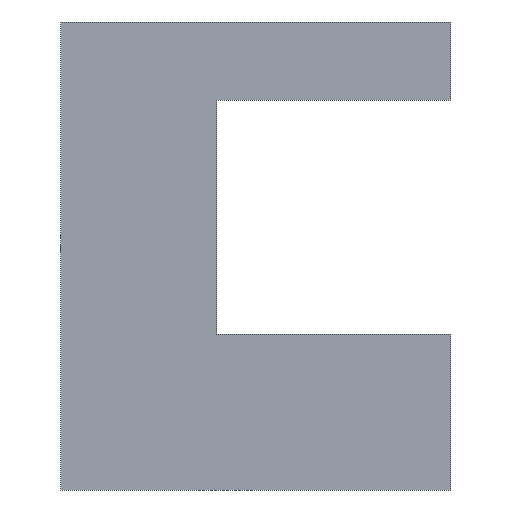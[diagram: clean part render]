
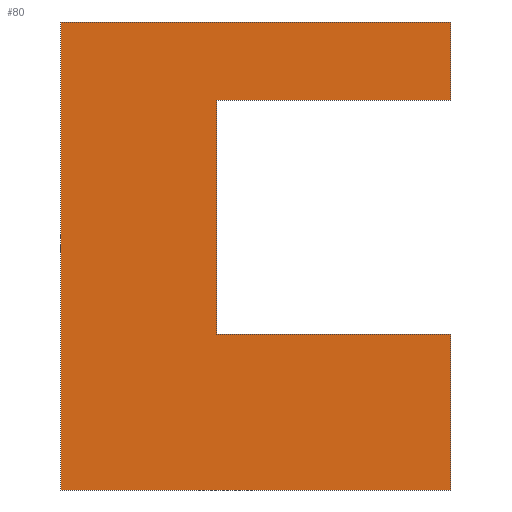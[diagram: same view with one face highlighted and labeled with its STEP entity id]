
A CAD part, front view. The second image highlights one B-rep face of the part: STEP entity #80.
In plain terms, the highlighted planar face has unit normal (0, -1, 0).
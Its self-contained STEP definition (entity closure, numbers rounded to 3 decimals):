
#15 = DIRECTION ( 'NONE',  ( 0., 0., -1. ) ) ;
#17 = EDGE_CURVE ( 'NONE', #107, #82, #66, .T. ) ;
#33 = AXIS2_PLACEMENT_3D ( 'NONE', #61, #242, #167 ) ;
#34 = LINE ( 'NONE', #329, #317 ) ;
#41 = LINE ( 'NONE', #229, #228 ) ;
#44 = LINE ( 'NONE', #298, #109 ) ;
#49 = LINE ( 'NONE', #125, #240 ) ;
#51 = CARTESIAN_POINT ( 'NONE',  ( 0., -1000., 15. ) ) ;
#55 = ORIENTED_EDGE ( 'NONE', *, *, #239, .F. ) ;
#61 = CARTESIAN_POINT ( 'NONE',  ( 0., -1000., 0. ) ) ;
#63 = DIRECTION ( 'NONE',  ( 0., 0., 1. ) ) ;
#64 = PLANE ( 'NONE',  #33 ) ;
#66 = LINE ( 'NONE', #241, #74 ) ;
#74 = VECTOR ( 'NONE', #245, 1000. ) ;
#76 = LINE ( 'NONE', #51, #170 ) ;
#79 = ORIENTED_EDGE ( 'NONE', *, *, #269, .F. ) ;
#80 = ADVANCED_FACE ( 'NONE', ( #263 ), #64, .F. ) ;
#82 = VERTEX_POINT ( 'NONE', #96 ) ;
#84 = EDGE_CURVE ( 'NONE', #91, #292, #41, .T. ) ;
#91 = VERTEX_POINT ( 'NONE', #302 ) ;
#96 = CARTESIAN_POINT ( 'NONE',  ( 12.5, -1000., -5. ) ) ;
#107 = VERTEX_POINT ( 'NONE', #156 ) ;
#108 = EDGE_CURVE ( 'NONE', #292, #107, #49, .T. ) ;
#109 = VECTOR ( 'NONE', #124, 1000. ) ;
#123 = VECTOR ( 'NONE', #318, 1000. ) ;
#124 = DIRECTION ( 'NONE',  ( -1., 0., 0. ) ) ;
#125 = CARTESIAN_POINT ( 'NONE',  ( -2.5, -1000., 2.5 ) ) ;
#131 = ORIENTED_EDGE ( 'NONE', *, *, #84, .F. ) ;
#138 = ORIENTED_EDGE ( 'NONE', *, *, #200, .F. ) ;
#139 = ORIENTED_EDGE ( 'NONE', *, *, #108, .F. ) ;
#142 = ORIENTED_EDGE ( 'NONE', *, *, #17, .F. ) ;
#147 = EDGE_CURVE ( 'NONE', #82, #323, #176, .T. ) ;
#152 = CARTESIAN_POINT ( 'NONE',  ( 12.5, -1000., 15. ) ) ;
#154 = CARTESIAN_POINT ( 'NONE',  ( -12.5, -1000., 15. ) ) ;
#156 = CARTESIAN_POINT ( 'NONE',  ( -2.5, -1000., -5. ) ) ;
#160 = VERTEX_POINT ( 'NONE', #152 ) ;
#163 = ORIENTED_EDGE ( 'NONE', *, *, #177, .F. ) ;
#167 = DIRECTION ( 'NONE',  ( 1., 0., 0. ) ) ;
#170 = VECTOR ( 'NONE', #303, 1000. ) ;
#172 = VECTOR ( 'NONE', #319, 1000. ) ;
#176 = LINE ( 'NONE', #320, #123 ) ;
#177 = EDGE_CURVE ( 'NONE', #212, #160, #76, .T. ) ;
#200 = EDGE_CURVE ( 'NONE', #323, #313, #44, .T. ) ;
#212 = VERTEX_POINT ( 'NONE', #154 ) ;
#222 = CARTESIAN_POINT ( 'NONE',  ( 12.5, -1000., 12.5 ) ) ;
#228 = VECTOR ( 'NONE', #256, 1000. ) ;
#229 = CARTESIAN_POINT ( 'NONE',  ( 5., -1000., 10. ) ) ;
#233 = CARTESIAN_POINT ( 'NONE',  ( 12.5, -1000., -15. ) ) ;
#239 = EDGE_CURVE ( 'NONE', #313, #212, #34, .T. ) ;
#240 = VECTOR ( 'NONE', #15, 1000. ) ;
#241 = CARTESIAN_POINT ( 'NONE',  ( 5., -1000., -5. ) ) ;
#242 = DIRECTION ( 'NONE',  ( 0., 1., 0. ) ) ;
#245 = DIRECTION ( 'NONE',  ( 1., 0., 0. ) ) ;
#254 = CARTESIAN_POINT ( 'NONE',  ( -12.5, -1000., -15. ) ) ;
#256 = DIRECTION ( 'NONE',  ( -1., 0., 0. ) ) ;
#263 = FACE_OUTER_BOUND ( 'NONE', #268, .T. ) ;
#268 = EDGE_LOOP ( 'NONE', ( #55, #138, #310, #142, #139, #131, #79, #163 ) ) ;
#269 = EDGE_CURVE ( 'NONE', #160, #91, #274, .T. ) ;
#274 = LINE ( 'NONE', #222, #172 ) ;
#292 = VERTEX_POINT ( 'NONE', #330 ) ;
#298 = CARTESIAN_POINT ( 'NONE',  ( 0., -1000., -15. ) ) ;
#302 = CARTESIAN_POINT ( 'NONE',  ( 12.5, -1000., 10. ) ) ;
#303 = DIRECTION ( 'NONE',  ( 1., 0., 0. ) ) ;
#310 = ORIENTED_EDGE ( 'NONE', *, *, #147, .F. ) ;
#313 = VERTEX_POINT ( 'NONE', #254 ) ;
#317 = VECTOR ( 'NONE', #63, 1000. ) ;
#318 = DIRECTION ( 'NONE',  ( 0., 0., -1. ) ) ;
#319 = DIRECTION ( 'NONE',  ( 0., 0., -1. ) ) ;
#320 = CARTESIAN_POINT ( 'NONE',  ( 12.5, -1000., -10. ) ) ;
#323 = VERTEX_POINT ( 'NONE', #233 ) ;
#329 = CARTESIAN_POINT ( 'NONE',  ( -12.5, -1000., 0. ) ) ;
#330 = CARTESIAN_POINT ( 'NONE',  ( -2.5, -1000., 10. ) ) ;
